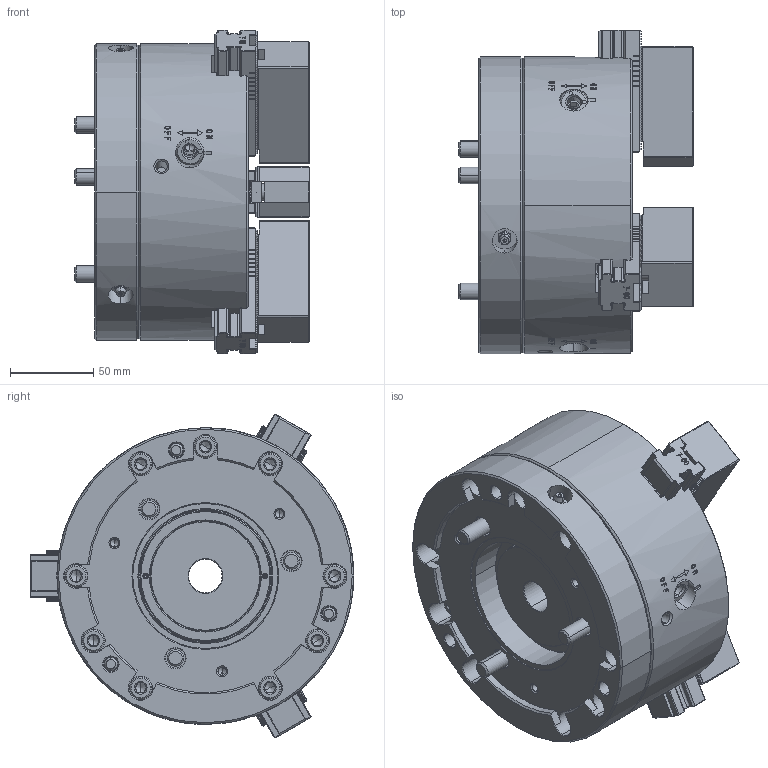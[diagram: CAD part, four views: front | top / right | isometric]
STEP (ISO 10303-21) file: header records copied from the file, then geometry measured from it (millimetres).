
FILE_DESCRIPTION (( 'STEP AP214' ), '1' );
FILE_NAME ('QJR07_61P274636-0_UC.STEP', '2026-03-12T05:22:45', ( '' ), ( '' ), 'SwSTEP 2.0', 'SolidWorks 2022', '' );
FILE_SCHEMA (( 'AUTOMOTIVE_DESIGN' ));
Length unit declared in the file: millimetre
Products named in the file (7): Copy of 0030110030^DT1_QJR07; DT1_QJR07_JAW1^DT1_QJR07; QJR07_61P274636-0_UC; DT1_QJR07_BASE^DT1_QJR07; DT1_QJR07_SOFTJAW^DT1_QJR07; DT1_QJR07_M10x90^DT1_QJR07; DT1_QJR07_DRAWNUT^DT1_QJR07
Assembly tree (17 placements, depth 2):
  QJR07_61P274636-0_UC
    DT1_QJR07_DRAWNUT^DT1_QJR07
    DT1_QJR07_SOFTJAW^DT1_QJR07  x3
    DT1_QJR07_M10x90^DT1_QJR07  x3
    Copy of 0030110030^DT1_QJR07  x6
    DT1_QJR07_JAW1^DT1_QJR07  x3
    DT1_QJR07_BASE^DT1_QJR07
Bounding box: 140.65 x 194.02 x 194.24 mm (x, y, z)
Volume: 2158777.5 mm3; surface area: 292683.3 mm2
Topology: 17 solids, 68 shells, 8003 faces, 22069 edges, 14430 vertices
Faces by surface type: plane 4759, cylinder 1579, bspline 974, cone 609, torus 73, sphere 9
Entity records: 210972 total; most frequent: CARTESIAN_POINT 85386, ORIENTED_EDGE 28626, DIRECTION 21589, EDGE_CURVE 14313, VERTEX_POINT 9392, VECTOR 9247, LINE 9247, AXIS2_PLACEMENT_3D 6171
